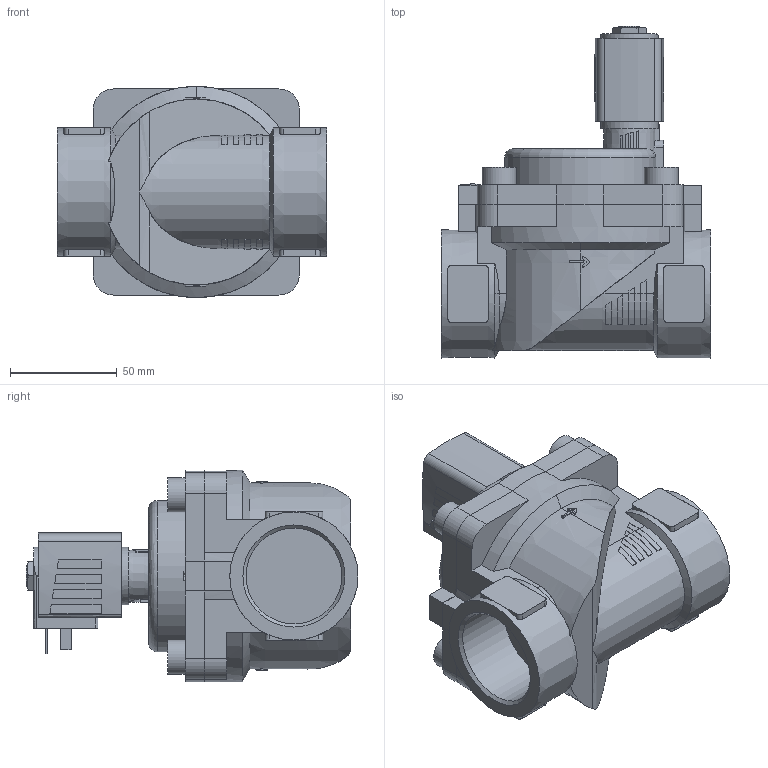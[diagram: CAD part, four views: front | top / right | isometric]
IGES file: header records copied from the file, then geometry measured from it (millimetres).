
Start section: Data from Parasolid IGES Translator 26.0.171, Copyright(c) 2006 Siemens PLM Software. All Rights Reserved.
Global section: file name: 6281-317007-2_2-Way_Solenoid_Valve__Servo-assisted__General_Purpose.igs; native system: By Siemens PLM Incorporated; preprocessor: XPlus GENERIC/IGES 26.0.171; author: Noname; organization: Noname; date: 20240830.214412; units: millimetre
Bounding box: 126 x 155.5 x 99 mm (x, y, z)
Surface area: 93042.5 mm2 (no closed solid volume)
Topology: 0 solids, 0 shells, 364 faces, 1936 edges, 1929 vertices
Faces by surface type: extrusion 235, revolution 129
